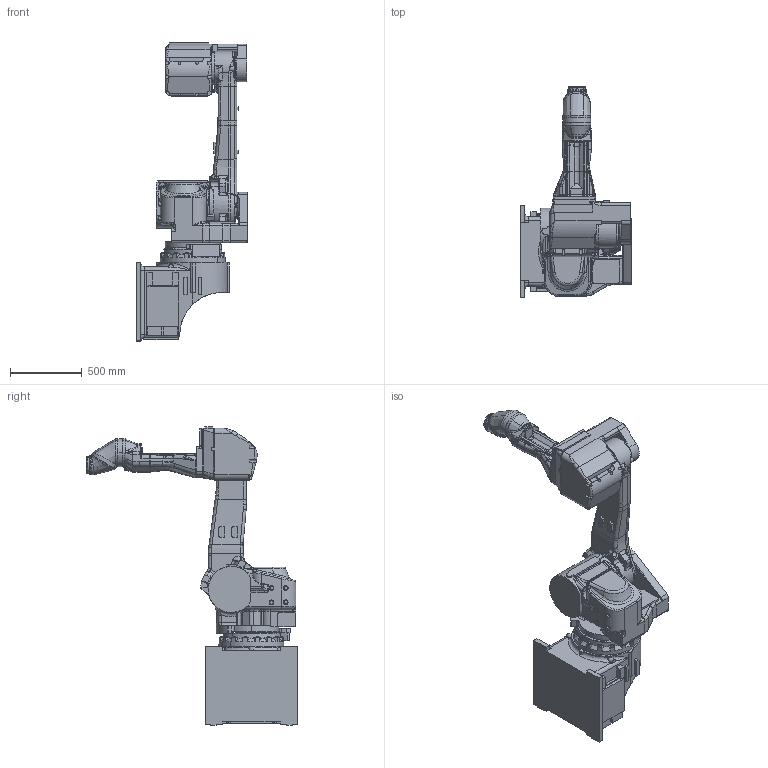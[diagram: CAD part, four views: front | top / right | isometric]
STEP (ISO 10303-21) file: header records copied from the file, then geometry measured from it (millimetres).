
FILE_DESCRIPTION(('CATIA V5 STEP Exchange'),'2;1');
FILE_NAME('F:\☆新しいフォルダ\【K-ROSET】\K-ROSET_モデル\ロボット\※ロボット\※K\☆150522_KJシリーズ一新\受領モデル\KJ\ASSY\○KJ194J-D101(kabe_2)\ASSY\STEP_160223\KJ194-D101.stp','2016-02-23T01:40:04+00:00',('none'),('none'),'CATIA Version 5-6 Release 2013 SP5 HF60','CATIA V5 STEP AP203','none');
FILE_SCHEMA(('CONFIG_CONTROL_DESIGN'));
Products named in the file (1): KJ194-D101
Assembly tree (7 placements, depth 2):
  KJ194-D101
    #57
    #21986
    #44306
    #60757
    #100109
    #100625
    #101743
Bounding box: 770 x 1465 x 2076 mm (x, y, z)
Volume: 231966899.9 mm3; surface area: 8502708.5 mm2
Topology: 8 solids, 40 shells, 2356 faces, 6042 edges, 3704 vertices
Faces by surface type: plane 813, cylinder 776, bspline 406, cone 168, torus 152, sphere 30, extrusion 8, revolution 3
Entity records: 102922 total; most frequent: CARTESIAN_POINT 53039, ORIENTED_EDGE 11802, DIRECTION 7346, EDGE_CURVE 5901, VERTEX_POINT 3704, AXIS2_PLACEMENT_3D 3341, VECTOR 2512, LINE 2504
